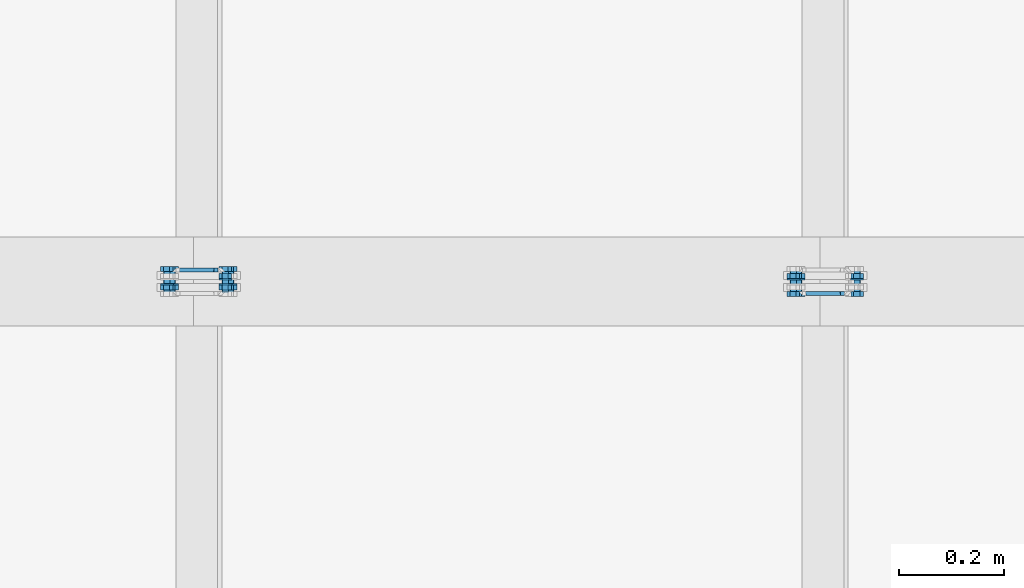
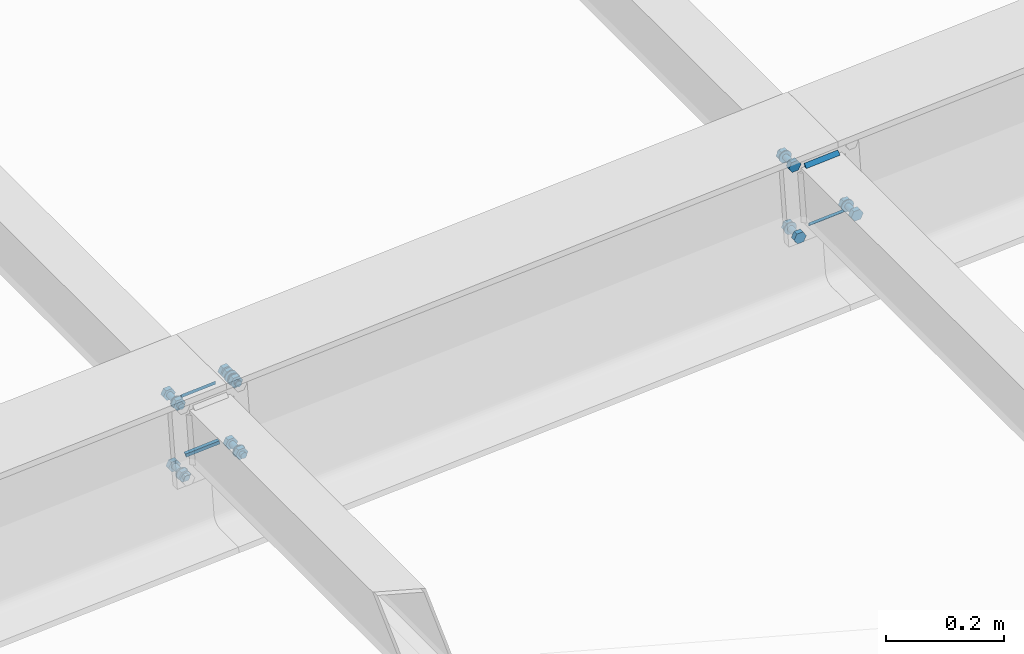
# One storey, part 49 of 72: 31 mechanical fasteners, 8 fasteners.
"""IFC4 building model written with IfcOpenShell, lengths in metres."""

from ifc_helpers import new_model, si_unit, frame, origin_with_axes, place, context, project, spatial, polyline, outline, extrude, type_object, element, save


model = new_model("IFC4")

# Units and contexts
model_context = context("Model", 3, precision=1e-05, world=origin_with_axes())
ifc_project = project(units=[si_unit("LENGTHUNIT", "METRE"), si_unit("AREAUNIT", "SQUARE_METRE"), si_unit("VOLUMEUNIT", "CUBIC_METRE"), si_unit("MASSUNIT", "GRAM", prefix="KILO"), si_unit("TIMEUNIT", "SECOND"), si_unit("PLANEANGLEUNIT", "RADIAN"), si_unit("SOLIDANGLEUNIT", "STERADIAN"), si_unit("THERMODYNAMICTEMPERATUREUNIT", "DEGREE_CELSIUS")], contexts=[model_context])

# Site, building, storey
placement_1 = place(None, origin_with_axes())
site = spatial("IfcSite", under=ifc_project, at=placement_1, Name="Italia", CompositionType="ELEMENT")
building = spatial("IfcBuilding", under=site, at=placement_1, Name="Pensilina", CompositionType="ELEMENT")
storey = spatial("IfcBuildingStorey", under=building, at=placement_1, Name="Storey 0", CompositionType="ELEMENT", Elevation=0.0)

# Mechanical fasteners
mechanical_fastener_type_1 = type_object("IfcMechanicalFastenerType", Name="Collegamento 0303_0302", PredefinedType="BOLT")
placement_2 = place(placement_1, origin_with_axes())
mechanical_fastener_1_placement = place(placement_2, origin_with_axes())
element("IfcMechanicalFastener", 1, at=mechanical_fastener_1_placement, inside=storey, type_object=mechanical_fastener_type_1, Name="Collegamento 0303_0302", NominalDiameter=0.012, context=model_context, shape_type="SweptSolid", body=[
    extrude(outline(polyline([(0.0, 0.0, 0.0), (-0.000204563, -0.00155282, 0.0), (-0.000803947, -0.00300002, 0.0), (-0.00175738, -0.00424266, 0.0), (-0.00300002, -0.00519609, 0.0), (-0.00444722, -0.00579548, 0.0), (-0.00600004, -0.00600004, 0.0), (-0.00755286, -0.00579548, 0.0), (-0.00900006, -0.00519609, 0.0), (-0.0102427, -0.00424266, 0.0), (-0.0111961, -0.00300002, 0.0), (-0.0117955, -0.00155282, 0.0), (-0.0120001, 0.0, 0.0), (-0.0117955, 0.00155282, 0.0), (-0.0111961, 0.00300002, 0.0), (-0.0102427, 0.00424266, 0.0), (-0.00900006, 0.00519609, 0.0), (-0.00755286, 0.00579548, 0.0), (-0.00600004, 0.00600004, 0.0), (-0.00444722, 0.00579548, 0.0), (-0.00300002, 0.00519609, 0.0), (-0.00175738, 0.00424266, 0.0), (-0.000803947, 0.00300002, 0.0), (-0.000204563, 0.00155282, 0.0), (0.0, 0.0, 0.0)])), frame((2.27503, 10.582, 3.85843), z_axis=(0.0, -1.0, 0.0), x_axis=(1.0, 0.0, 0.0)), (0.0, 0.0, 1.0), 0.0410004),
])
mechanical_fastener_type_2 = type_object("IfcMechanicalFastenerType", Name="Collegamento 0303_0302", PredefinedType="BOLT")
mechanical_fastener_2_placement = place(placement_2, origin_with_axes())
element("IfcMechanicalFastener", 2, at=mechanical_fastener_2_placement, inside=storey, type_object=mechanical_fastener_type_2, Name="Collegamento 0303_0302", NominalDiameter=0.0119999, context=model_context, shape_type="SweptSolid", body=[
    extrude(outline(polyline([(0.0, 0.0, 0.0), (-0.0119729, -0.000807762, 0.0), (-0.0186589, 0.00915718, 0.0), (-0.0133719, 0.0199296, 0.0), (-0.00139928, 0.0207376, 0.0), (0.00528669, 0.0107727, 0.0), (0.0, 0.0, 0.0)])), frame((2.27571, 10.5756, 3.84846), z_axis=(0.0, -1.0, 0.0), x_axis=(1.0, 0.0, 0.0)), (0.0, 0.0, 1.0), 0.00959969),
])
mechanical_fastener_type_3 = type_object("IfcMechanicalFastenerType", Name="Collegamento 0303_0302", PredefinedType="BOLT")
mechanical_fastener_3_placement = place(placement_2, origin_with_axes())
element("IfcMechanicalFastener", 3, at=mechanical_fastener_3_placement, inside=storey, type_object=mechanical_fastener_type_3, Name="Collegamento 0303_0302", NominalDiameter=0.024, context=model_context, shape_type="SweptSolid", body=[
    extrude(outline(polyline([(0.0, 0.0, 0.0), (-0.000408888, -0.00310588, 0.0), (-0.00160789, -0.00600004, 0.0), (-0.00351477, -0.00848532, 0.0), (-0.00600004, -0.0103922, 0.0), (-0.00889421, -0.0115912, 0.0), (-0.0120001, -0.0120001, 0.0), (-0.015106, -0.0115912, 0.0), (-0.0180001, -0.0103922, 0.0), (-0.0204854, -0.00848532, 0.0), (-0.0223923, -0.00600004, 0.0), (-0.0235913, -0.00310588, 0.0), (-0.0240002, 0.0, 0.0), (-0.0235913, 0.00310588, 0.0), (-0.0223923, 0.00600004, 0.0), (-0.0204854, 0.00848532, 0.0), (-0.0180001, 0.0103922, 0.0), (-0.015106, 0.0115912, 0.0), (-0.0120001, 0.0120001, 0.0), (-0.00889421, 0.0115912, 0.0), (-0.00600004, 0.0103922, 0.0), (-0.00351477, 0.00848532, 0.0), (-0.00160789, 0.00600004, 0.0), (-0.000408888, 0.00310588, 0.0), (0.0, 0.0, 0.0)])), frame((2.28103, 10.566, 3.85843), z_axis=(0.0, -1.0, 0.0), x_axis=(1.0, 0.0, 0.0)), (0.0, 0.0, 1.0), 0.00199986),
])

# Fasteners
fastener_type_1 = type_object("IfcFastenerType", Name="Collegamento 0303_0304", PredefinedType="WELD")
fastener_1_placement = place(placement_2, origin_with_axes())
element("IfcFastener", 4, at=fastener_1_placement, inside=storey, type_object=fastener_type_1, Name="Collegamento 0303_0304", context=model_context, shape_type="SweptSolid", body=[
    extrude(outline(polyline([(0.0, 0.0, 0.0), (0.00717354, -0.00695801, 0.0), (0.0, -0.00695801, 0.0), (0.0, 0.0, 0.0)])), frame((2.18079, 10.5789, 3.84336), z_axis=(0.997731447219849, 0.0, 0.067319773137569), x_axis=(0.0, 1.0, 0.0)), (0.0, 0.0, 1.0), 0.0661001),
])
fastener_type_2 = type_object("IfcFastenerType", Name="Collegamento 0303_0304", PredefinedType="WELD")
fastener_2_placement = place(placement_2, origin_with_axes())
element("IfcFastener", 5, at=fastener_2_placement, inside=storey, type_object=fastener_type_2, Name="Collegamento 0303_0304", context=model_context, shape_type="SweptSolid", body=[
    extrude(outline(polyline([(0.0, 0.0, 0.0), (-0.00717354, 0.00695801, 0.0), (0.0, 0.00695801, 0.0), (0.0, 0.0, 0.0)])), frame((2.25575, 10.5789, 3.7143), z_axis=(-0.997731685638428, 0.0, -0.067316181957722), x_axis=(0.0, -1.0, 0.0)), (0.0, 0.0, 1.0), 0.0661001),
])
fastener_type_3 = type_object("IfcFastenerType", Name="Collegamento 0303_0304", PredefinedType="WELD")
fastener_3_placement = place(placement_2, origin_with_axes())
element("IfcFastener", 6, at=fastener_3_placement, inside=storey, type_object=fastener_type_3, Name="Collegamento 0303_0304", context=model_context, shape_type="SweptSolid", body=[
    extrude(outline(polyline([(0.0, 0.0, 0.0), (0.00717354, -0.00695801, 0.0), (0.0, -0.00695801, 0.0), (0.0, 0.0, 0.0)])), frame((2.18079, 10.5789, 3.84336), z_axis=(0.997731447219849, 0.0, 0.067319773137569), x_axis=(0.0, 1.0, 0.0)), (0.0, 0.0, 1.0), 0.0661001),
])
fastener_type_4 = type_object("IfcFastenerType", Name="Collegamento 0303_0304", PredefinedType="WELD")
fastener_4_placement = place(placement_2, origin_with_axes())
element("IfcFastener", 7, at=fastener_4_placement, inside=storey, type_object=fastener_type_4, Name="Collegamento 0303_0304", context=model_context, shape_type="SweptSolid", body=[
    extrude(outline(polyline([(0.0, 0.0, 0.0), (-0.00717354, 0.00695801, 0.0), (0.0, 0.00695801, 0.0), (0.0, 0.0, 0.0)])), frame((2.25575, 10.5789, 3.7143), z_axis=(-0.997731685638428, 0.0, -0.067316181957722), x_axis=(0.0, -1.0, 0.0)), (0.0, 0.0, 1.0), 0.0661001),
])

# Mechanical fasteners
mechanical_fastener_type_4 = type_object("IfcMechanicalFastenerType", Name="Collegamento 0303_0304", PredefinedType="BOLT")
mechanical_fastener_4_placement = place(placement_2, origin_with_axes())
element("IfcMechanicalFastener", 8, at=mechanical_fastener_4_placement, inside=storey, type_object=mechanical_fastener_type_4, Name="Collegamento 0303_0304", NominalDiameter=0.0119999, context=model_context, shape_type="SweptSolid", body=[
    extrude(outline(polyline([(0.0, 0.0, 0.0), (-0.0119729, 0.000807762, 0.0), (-0.0172596, 0.0115805, 0.0), (-0.0105736, 0.0215454, 0.0), (0.00139904, 0.0207374, 0.0), (0.00668597, 0.00996494, 0.0), (0.0, 0.0, 0.0)])), frame((2.27397, 10.579, 3.696), z_axis=(0.0, 1.0, 0.0), x_axis=(-1.0, 0.0, 0.0)), (0.0, 0.0, 1.0), 0.00959969),
])
mechanical_fastener_type_5 = type_object("IfcMechanicalFastenerType", Name="Collegamento 0303_0304", PredefinedType="BOLT")
mechanical_fastener_5_placement = place(placement_2, origin_with_axes())
element("IfcMechanicalFastener", 9, at=mechanical_fastener_5_placement, inside=storey, type_object=mechanical_fastener_type_5, Name="Collegamento 0303_0304", NominalDiameter=0.012, context=model_context, shape_type="SweptSolid", body=[
    extrude(outline(polyline([(0.0, 0.0, 0.0), (-0.000204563, -0.00155282, 0.0), (-0.000803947, -0.00300002, 0.0), (-0.00175738, -0.00424266, 0.0), (-0.00300002, -0.00519609, 0.0), (-0.00444722, -0.00579548, 0.0), (-0.00600004, -0.00600004, 0.0), (-0.00755286, -0.00579548, 0.0), (-0.00900006, -0.00519609, 0.0), (-0.0102427, -0.00424266, 0.0), (-0.0111961, -0.00300002, 0.0), (-0.0117955, -0.00155282, 0.0), (-0.0120001, 0.0, 0.0), (-0.0117955, 0.00155282, 0.0), (-0.0111961, 0.00300002, 0.0), (-0.0102427, 0.00424266, 0.0), (-0.00900006, 0.00519609, 0.0), (-0.00755286, 0.00579548, 0.0), (-0.00600004, 0.00600004, 0.0), (-0.00444722, 0.00579548, 0.0), (-0.00300002, 0.00519609, 0.0), (-0.00175738, 0.00424266, 0.0), (-0.000803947, 0.00300002, 0.0), (-0.000204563, 0.00155282, 0.0), (0.0, 0.0, 0.0)])), frame((2.27326, 10.538, 3.70677), z_axis=(0.0, 1.0, 0.0), x_axis=(-1.0, 0.0, 0.0)), (0.0, 0.0, 1.0), 0.0410004),
])
mechanical_fastener_type_6 = type_object("IfcMechanicalFastenerType", Name="Collegamento 0303_0304", PredefinedType="BOLT")
mechanical_fastener_6_placement = place(placement_2, origin_with_axes())
element("IfcMechanicalFastener", 10, at=mechanical_fastener_6_placement, inside=storey, type_object=mechanical_fastener_type_6, Name="Collegamento 0303_0304", NominalDiameter=0.0119999, context=model_context, shape_type="SweptSolid", body=[
    extrude(outline(polyline([(0.0, 0.0, 0.0), (-0.0119729, 0.000807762, 0.0), (-0.0172596, 0.0115805, 0.0), (-0.0105736, 0.0215454, 0.0), (0.00139904, 0.0207374, 0.0), (0.00668597, 0.00996494, 0.0), (0.0, 0.0, 0.0)])), frame((2.27397, 10.5444, 3.696), z_axis=(0.0, 1.0, 0.0), x_axis=(-1.0, 0.0, 0.0)), (0.0, 0.0, 1.0), 0.00959969),
])
mechanical_fastener_type_7 = type_object("IfcMechanicalFastenerType", Name="Collegamento 0303_0304", PredefinedType="BOLT")
mechanical_fastener_7_placement = place(placement_2, origin_with_axes())
element("IfcMechanicalFastener", 11, at=mechanical_fastener_7_placement, inside=storey, type_object=mechanical_fastener_type_7, Name="Collegamento 0303_0304", NominalDiameter=0.024, context=model_context, shape_type="SweptSolid", body=[
    extrude(outline(polyline([(0.0, 0.0, 0.0), (-0.000408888, -0.00310588, 0.0), (-0.00160789, -0.00600004, 0.0), (-0.00351477, -0.00848532, 0.0), (-0.00600004, -0.0103922, 0.0), (-0.00889421, -0.0115912, 0.0), (-0.0120001, -0.0120001, 0.0), (-0.015106, -0.0115912, 0.0), (-0.0180001, -0.0103922, 0.0), (-0.0204854, -0.00848532, 0.0), (-0.0223923, -0.00600004, 0.0), (-0.0235913, -0.00310588, 0.0), (-0.0240002, 0.0, 0.0), (-0.0235913, 0.00310588, 0.0), (-0.0223923, 0.00600004, 0.0), (-0.0204854, 0.00848532, 0.0), (-0.0180001, 0.0103922, 0.0), (-0.015106, 0.0115912, 0.0), (-0.0120001, 0.0120001, 0.0), (-0.00889421, 0.0115912, 0.0), (-0.00600004, 0.0103922, 0.0), (-0.00351477, 0.00848532, 0.0), (-0.00160789, 0.00600004, 0.0), (-0.000408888, 0.00310588, 0.0), (0.0, 0.0, 0.0)])), frame((2.26726, 10.554, 3.70677), z_axis=(0.0, 1.0, 0.0), x_axis=(-1.0, 0.0, 0.0)), (0.0, 0.0, 1.0), 0.00199986),
])
mechanical_fastener_type_8 = type_object("IfcMechanicalFastenerType", Name="Collegamento 0303_0304", PredefinedType="BOLT")
mechanical_fastener_8_placement = place(placement_2, origin_with_axes())
element("IfcMechanicalFastener", 12, at=mechanical_fastener_8_placement, inside=storey, type_object=mechanical_fastener_type_8, Name="Collegamento 0303_0304", NominalDiameter=0.0119999, context=model_context, shape_type="SweptSolid", body=[
    extrude(outline(polyline([(0.0, 0.0, 0.0), (-0.0119727, 0.000808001, 0.0), (-0.0172596, 0.0115805, 0.0), (-0.0105736, 0.0215454, 0.0), (0.00139928, 0.0207376, 0.0), (0.00668597, 0.00996494, 0.0), (0.0, 0.0, 0.0)])), frame((2.16223, 10.579, 3.68846), z_axis=(0.0, 1.0, 0.0), x_axis=(-1.0, 0.0, 0.0)), (0.0, 0.0, 1.0), 0.00959969),
])
mechanical_fastener_type_9 = type_object("IfcMechanicalFastenerType", Name="Collegamento 0303_0304", PredefinedType="BOLT")
mechanical_fastener_9_placement = place(placement_2, origin_with_axes())
element("IfcMechanicalFastener", 13, at=mechanical_fastener_9_placement, inside=storey, type_object=mechanical_fastener_type_9, Name="Collegamento 0303_0304", NominalDiameter=0.012, context=model_context, shape_type="SweptSolid", body=[
    extrude(outline(polyline([(0.0, 0.0, 0.0), (-0.000204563, -0.00155282, 0.0), (-0.000803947, -0.00300002, 0.0), (-0.00175738, -0.00424266, 0.0), (-0.00300002, -0.00519609, 0.0), (-0.00444722, -0.00579548, 0.0), (-0.00600004, -0.00600004, 0.0), (-0.00755286, -0.00579548, 0.0), (-0.00900006, -0.00519609, 0.0), (-0.0102427, -0.00424266, 0.0), (-0.0111961, -0.00300002, 0.0), (-0.0117955, -0.00155282, 0.0), (-0.0120001, 0.0, 0.0), (-0.0117955, 0.00155282, 0.0), (-0.0111961, 0.00300002, 0.0), (-0.0102427, 0.00424266, 0.0), (-0.00900006, 0.00519609, 0.0), (-0.00755286, 0.00579548, 0.0), (-0.00600004, 0.00600004, 0.0), (-0.00444722, 0.00579548, 0.0), (-0.00300002, 0.00519609, 0.0), (-0.00175738, 0.00424266, 0.0), (-0.000803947, 0.00300002, 0.0), (-0.000204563, 0.00155282, 0.0), (0.0, 0.0, 0.0)])), frame((2.16151, 10.538, 3.69923), z_axis=(0.0, 1.0, 0.0), x_axis=(-1.0, 0.0, 0.0)), (0.0, 0.0, 1.0), 0.0410004),
])
mechanical_fastener_type_10 = type_object("IfcMechanicalFastenerType", Name="Collegamento 0303_0304", PredefinedType="BOLT")
mechanical_fastener_10_placement = place(placement_2, origin_with_axes())
element("IfcMechanicalFastener", 14, at=mechanical_fastener_10_placement, inside=storey, type_object=mechanical_fastener_type_10, Name="Collegamento 0303_0304", NominalDiameter=0.0119999, context=model_context, shape_type="SweptSolid", body=[
    extrude(outline(polyline([(0.0, 0.0, 0.0), (-0.0119727, 0.000808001, 0.0), (-0.0172596, 0.0115805, 0.0), (-0.0105736, 0.0215454, 0.0), (0.00139928, 0.0207376, 0.0), (0.00668597, 0.00996494, 0.0), (0.0, 0.0, 0.0)])), frame((2.16223, 10.5444, 3.68846), z_axis=(0.0, 1.0, 0.0), x_axis=(-1.0, 0.0, 0.0)), (0.0, 0.0, 1.0), 0.00959969),
])
mechanical_fastener_type_11 = type_object("IfcMechanicalFastenerType", Name="Collegamento 0303_0304", PredefinedType="BOLT")
mechanical_fastener_11_placement = place(placement_2, origin_with_axes())
element("IfcMechanicalFastener", 15, at=mechanical_fastener_11_placement, inside=storey, type_object=mechanical_fastener_type_11, Name="Collegamento 0303_0304", NominalDiameter=0.024, context=model_context, shape_type="SweptSolid", body=[
    extrude(outline(polyline([(0.0, 0.0, 0.0), (-0.000408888, -0.00310588, 0.0), (-0.00160789, -0.00600004, 0.0), (-0.00351477, -0.00848532, 0.0), (-0.00600004, -0.0103922, 0.0), (-0.00889421, -0.0115912, 0.0), (-0.0120001, -0.0120001, 0.0), (-0.015106, -0.0115912, 0.0), (-0.0180001, -0.0103922, 0.0), (-0.0204854, -0.00848532, 0.0), (-0.0223923, -0.00600004, 0.0), (-0.0235913, -0.00310588, 0.0), (-0.0240002, 0.0, 0.0), (-0.0235913, 0.00310588, 0.0), (-0.0223923, 0.00600004, 0.0), (-0.0204854, 0.00848532, 0.0), (-0.0180001, 0.0103922, 0.0), (-0.015106, 0.0115912, 0.0), (-0.0120001, 0.0120001, 0.0), (-0.00889421, 0.0115912, 0.0), (-0.00600004, 0.0103922, 0.0), (-0.00351477, 0.00848532, 0.0), (-0.00160789, 0.00600004, 0.0), (-0.000408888, 0.00310588, 0.0), (0.0, 0.0, 0.0)])), frame((2.15551, 10.554, 3.69923), z_axis=(0.0, 1.0, 0.0), x_axis=(-1.0, 0.0, 0.0)), (0.0, 0.0, 1.0), 0.00199986),
])
mechanical_fastener_type_12 = type_object("IfcMechanicalFastenerType", Name="Collegamento 0303_0304", PredefinedType="BOLT")
mechanical_fastener_12_placement = place(placement_2, origin_with_axes())
element("IfcMechanicalFastener", 16, at=mechanical_fastener_12_placement, inside=storey, type_object=mechanical_fastener_type_12, Name="Collegamento 0303_0304", NominalDiameter=0.0119999, context=model_context, shape_type="SweptSolid", body=[
    extrude(outline(polyline([(0.0, 0.0, 0.0), (-0.0119729, 0.000807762, 0.0), (-0.0172596, 0.0115805, 0.0), (-0.0105736, 0.0215454, 0.0), (0.00139904, 0.0207374, 0.0), (0.00668597, 0.00996494, 0.0), (0.0, 0.0, 0.0)])), frame((2.26374, 10.579, 3.84766), z_axis=(0.0, 1.0, 0.0), x_axis=(-1.0, 0.0, 0.0)), (0.0, 0.0, 1.0), 0.00959969),
])
mechanical_fastener_type_13 = type_object("IfcMechanicalFastenerType", Name="Collegamento 0303_0304", PredefinedType="BOLT")
mechanical_fastener_13_placement = place(placement_2, origin_with_axes())
element("IfcMechanicalFastener", 17, at=mechanical_fastener_13_placement, inside=storey, type_object=mechanical_fastener_type_13, Name="Collegamento 0303_0304", NominalDiameter=0.012, context=model_context, shape_type="SweptSolid", body=[
    extrude(outline(polyline([(0.0, 0.0, 0.0), (-0.000204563, -0.00155282, 0.0), (-0.000803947, -0.00300002, 0.0), (-0.00175738, -0.00424266, 0.0), (-0.00300002, -0.00519609, 0.0), (-0.00444722, -0.00579548, 0.0), (-0.00600004, -0.00600004, 0.0), (-0.00755286, -0.00579548, 0.0), (-0.00900006, -0.00519609, 0.0), (-0.0102427, -0.00424266, 0.0), (-0.0111961, -0.00300002, 0.0), (-0.0117955, -0.00155282, 0.0), (-0.0120001, 0.0, 0.0), (-0.0117955, 0.00155282, 0.0), (-0.0111961, 0.00300002, 0.0), (-0.0102427, 0.00424266, 0.0), (-0.00900006, 0.00519609, 0.0), (-0.00755286, 0.00579548, 0.0), (-0.00600004, 0.00600004, 0.0), (-0.00444722, 0.00579548, 0.0), (-0.00300002, 0.00519609, 0.0), (-0.00175738, 0.00424266, 0.0), (-0.000803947, 0.00300002, 0.0), (-0.000204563, 0.00155282, 0.0), (0.0, 0.0, 0.0)])), frame((2.26303, 10.538, 3.85843), z_axis=(0.0, 1.0, 0.0), x_axis=(-1.0, 0.0, 0.0)), (0.0, 0.0, 1.0), 0.0410004),
])
mechanical_fastener_type_14 = type_object("IfcMechanicalFastenerType", Name="Collegamento 0303_0304", PredefinedType="BOLT")
mechanical_fastener_14_placement = place(placement_2, origin_with_axes())
element("IfcMechanicalFastener", 18, at=mechanical_fastener_14_placement, inside=storey, type_object=mechanical_fastener_type_14, Name="Collegamento 0303_0304", NominalDiameter=0.0119999, context=model_context, shape_type="SweptSolid", body=[
    extrude(outline(polyline([(0.0, 0.0, 0.0), (-0.0119729, 0.000807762, 0.0), (-0.0172596, 0.0115805, 0.0), (-0.0105736, 0.0215454, 0.0), (0.00139904, 0.0207374, 0.0), (0.00668597, 0.00996494, 0.0), (0.0, 0.0, 0.0)])), frame((2.26374, 10.5444, 3.84766), z_axis=(0.0, 1.0, 0.0), x_axis=(-1.0, 0.0, 0.0)), (0.0, 0.0, 1.0), 0.00959969),
])
mechanical_fastener_type_15 = type_object("IfcMechanicalFastenerType", Name="Collegamento 0303_0304", PredefinedType="BOLT")
mechanical_fastener_15_placement = place(placement_2, origin_with_axes())
element("IfcMechanicalFastener", 19, at=mechanical_fastener_15_placement, inside=storey, type_object=mechanical_fastener_type_15, Name="Collegamento 0303_0304", NominalDiameter=0.024, context=model_context, shape_type="SweptSolid", body=[
    extrude(outline(polyline([(0.0, 0.0, 0.0), (-0.000408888, -0.00310588, 0.0), (-0.00160789, -0.00600004, 0.0), (-0.00351477, -0.00848532, 0.0), (-0.00600004, -0.0103922, 0.0), (-0.00889421, -0.0115912, 0.0), (-0.0120001, -0.0120001, 0.0), (-0.015106, -0.0115912, 0.0), (-0.0180001, -0.0103922, 0.0), (-0.0204854, -0.00848532, 0.0), (-0.0223923, -0.00600004, 0.0), (-0.0235913, -0.00310588, 0.0), (-0.0240002, 0.0, 0.0), (-0.0235913, 0.00310588, 0.0), (-0.0223923, 0.00600004, 0.0), (-0.0204854, 0.00848532, 0.0), (-0.0180001, 0.0103922, 0.0), (-0.015106, 0.0115912, 0.0), (-0.0120001, 0.0120001, 0.0), (-0.00889421, 0.0115912, 0.0), (-0.00600004, 0.0103922, 0.0), (-0.00351477, 0.00848532, 0.0), (-0.00160789, 0.00600004, 0.0), (-0.000408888, 0.00310588, 0.0), (0.0, 0.0, 0.0)])), frame((2.25703, 10.554, 3.85843), z_axis=(0.0, 1.0, 0.0), x_axis=(-1.0, 0.0, 0.0)), (0.0, 0.0, 1.0), 0.00199986),
])
mechanical_fastener_type_16 = type_object("IfcMechanicalFastenerType", Name="Collegamento 0303_0304", PredefinedType="BOLT")
mechanical_fastener_16_placement = place(placement_2, origin_with_axes())
element("IfcMechanicalFastener", 20, at=mechanical_fastener_16_placement, inside=storey, type_object=mechanical_fastener_type_16, Name="Collegamento 0303_0304", NominalDiameter=0.0119999, context=model_context, shape_type="SweptSolid", body=[
    extrude(outline(polyline([(0.0, 0.0, 0.0), (-0.0119727, 0.000808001, 0.0), (-0.0172596, 0.0115805, 0.0), (-0.0105736, 0.0215454, 0.0), (0.00139928, 0.0207376, 0.0), (0.00668597, 0.00996494, 0.0), (0.0, 0.0, 0.0)])), frame((2.15199, 10.579, 3.84012), z_axis=(0.0, 1.0, 0.0), x_axis=(-1.0, 0.0, 0.0)), (0.0, 0.0, 1.0), 0.00959969),
])
mechanical_fastener_type_17 = type_object("IfcMechanicalFastenerType", Name="Collegamento 0303_0304", PredefinedType="BOLT")
mechanical_fastener_17_placement = place(placement_2, origin_with_axes())
element("IfcMechanicalFastener", 21, at=mechanical_fastener_17_placement, inside=storey, type_object=mechanical_fastener_type_17, Name="Collegamento 0303_0304", NominalDiameter=0.012, context=model_context, shape_type="SweptSolid", body=[
    extrude(outline(polyline([(0.0, 0.0, 0.0), (-0.000204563, -0.00155282, 0.0), (-0.000803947, -0.00300002, 0.0), (-0.00175738, -0.00424266, 0.0), (-0.00300002, -0.00519609, 0.0), (-0.00444722, -0.00579548, 0.0), (-0.00600004, -0.00600004, 0.0), (-0.00755286, -0.00579548, 0.0), (-0.00900006, -0.00519609, 0.0), (-0.0102427, -0.00424266, 0.0), (-0.0111961, -0.00300002, 0.0), (-0.0117955, -0.00155282, 0.0), (-0.0120001, 0.0, 0.0), (-0.0117955, 0.00155282, 0.0), (-0.0111961, 0.00300002, 0.0), (-0.0102427, 0.00424266, 0.0), (-0.00900006, 0.00519609, 0.0), (-0.00755286, 0.00579548, 0.0), (-0.00600004, 0.00600004, 0.0), (-0.00444722, 0.00579548, 0.0), (-0.00300002, 0.00519609, 0.0), (-0.00175738, 0.00424266, 0.0), (-0.000803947, 0.00300002, 0.0), (-0.000204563, 0.00155282, 0.0), (0.0, 0.0, 0.0)])), frame((2.15128, 10.538, 3.85089), z_axis=(0.0, 1.0, 0.0), x_axis=(-1.0, 0.0, 0.0)), (0.0, 0.0, 1.0), 0.0410004),
])
mechanical_fastener_type_18 = type_object("IfcMechanicalFastenerType", Name="Collegamento 0303_0304", PredefinedType="BOLT")
mechanical_fastener_18_placement = place(placement_2, origin_with_axes())
element("IfcMechanicalFastener", 22, at=mechanical_fastener_18_placement, inside=storey, type_object=mechanical_fastener_type_18, Name="Collegamento 0303_0304", NominalDiameter=0.0119999, context=model_context, shape_type="SweptSolid", body=[
    extrude(outline(polyline([(0.0, 0.0, 0.0), (-0.0119727, 0.000808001, 0.0), (-0.0172596, 0.0115805, 0.0), (-0.0105736, 0.0215454, 0.0), (0.00139928, 0.0207376, 0.0), (0.00668597, 0.00996494, 0.0), (0.0, 0.0, 0.0)])), frame((2.15199, 10.5444, 3.84012), z_axis=(0.0, 1.0, 0.0), x_axis=(-1.0, 0.0, 0.0)), (0.0, 0.0, 1.0), 0.00959969),
])
mechanical_fastener_type_19 = type_object("IfcMechanicalFastenerType", Name="Collegamento 0303_0304", PredefinedType="BOLT")
mechanical_fastener_19_placement = place(placement_2, origin_with_axes())
element("IfcMechanicalFastener", 23, at=mechanical_fastener_19_placement, inside=storey, type_object=mechanical_fastener_type_19, Name="Collegamento 0303_0304", NominalDiameter=0.024, context=model_context, shape_type="SweptSolid", body=[
    extrude(outline(polyline([(0.0, 0.0, 0.0), (-0.000408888, -0.00310588, 0.0), (-0.00160789, -0.00600004, 0.0), (-0.00351477, -0.00848532, 0.0), (-0.00600004, -0.0103922, 0.0), (-0.00889421, -0.0115912, 0.0), (-0.0120001, -0.0120001, 0.0), (-0.015106, -0.0115912, 0.0), (-0.0180001, -0.0103922, 0.0), (-0.0204854, -0.00848532, 0.0), (-0.0223923, -0.00600004, 0.0), (-0.0235913, -0.00310588, 0.0), (-0.0240002, 0.0, 0.0), (-0.0235913, 0.00310588, 0.0), (-0.0223923, 0.00600004, 0.0), (-0.0204854, 0.00848532, 0.0), (-0.0180001, 0.0103922, 0.0), (-0.015106, 0.0115912, 0.0), (-0.0120001, 0.0120001, 0.0), (-0.00889421, 0.0115912, 0.0), (-0.00600004, 0.0103922, 0.0), (-0.00351477, 0.00848532, 0.0), (-0.00160789, 0.00600004, 0.0), (-0.000408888, 0.00310588, 0.0), (0.0, 0.0, 0.0)])), frame((2.14528, 10.554, 3.85089), z_axis=(0.0, 1.0, 0.0), x_axis=(-1.0, 0.0, 0.0)), (0.0, 0.0, 1.0), 0.00199986),
])

# Fasteners
fastener_type_5 = type_object("IfcFastenerType", Name="Collegamento 0403_0402", PredefinedType="WELD")
fastener_5_placement = place(placement_2, origin_with_axes())
element("IfcFastener", 24, at=fastener_5_placement, inside=storey, type_object=fastener_type_5, Name="Collegamento 0403_0402", context=model_context, shape_type="SweptSolid", body=[
    extrude(outline(polyline([(0.0, 0.0, 0.0), (0.00717354, -0.00695825, 0.0), (0.0, -0.00695825, 0.0), (0.0, 0.0, 0.0)])), frame((3.44387, 10.5411, 3.93006), z_axis=(-0.997731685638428, 0.0, -0.067316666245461), x_axis=(0.0, -1.0, 0.0)), (0.0, 0.0, 1.0), 0.0660996),
])
fastener_type_6 = type_object("IfcFastenerType", Name="Collegamento 0403_0402", PredefinedType="WELD")
fastener_6_placement = place(placement_2, origin_with_axes())
element("IfcFastener", 25, at=fastener_6_placement, inside=storey, type_object=fastener_type_6, Name="Collegamento 0403_0402", context=model_context, shape_type="SweptSolid", body=[
    extrude(outline(polyline([(0.0, 0.0, 0.0), (-0.00717354, 0.00695801, 0.0), (0.0, 0.00695801, 0.0), (0.0, 0.0, 0.0)])), frame((3.38693, 10.5411, 3.79209), z_axis=(0.997731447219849, 0.0, 0.067320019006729), x_axis=(0.0, 1.0, 0.0)), (0.0, 0.0, 1.0), 0.0660999),
])
fastener_type_7 = type_object("IfcFastenerType", Name="Collegamento 0403_0402", PredefinedType="WELD")
fastener_7_placement = place(placement_2, origin_with_axes())
element("IfcFastener", 26, at=fastener_7_placement, inside=storey, type_object=fastener_type_7, Name="Collegamento 0403_0402", context=model_context, shape_type="SweptSolid", body=[
    extrude(outline(polyline([(0.0, 0.0, 0.0), (0.00717354, -0.00695825, 0.0), (0.0, -0.00695825, 0.0), (0.0, 0.0, 0.0)])), frame((3.44387, 10.5411, 3.93006), z_axis=(-0.997731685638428, 0.0, -0.067316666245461), x_axis=(0.0, -1.0, 0.0)), (0.0, 0.0, 1.0), 0.0660996),
])
fastener_type_8 = type_object("IfcFastenerType", Name="Collegamento 0403_0402", PredefinedType="WELD")
fastener_8_placement = place(placement_2, origin_with_axes())
element("IfcFastener", 27, at=fastener_8_placement, inside=storey, type_object=fastener_type_8, Name="Collegamento 0403_0402", context=model_context, shape_type="SweptSolid", body=[
    extrude(outline(polyline([(0.0, 0.0, 0.0), (-0.00717354, 0.00695801, 0.0), (0.0, 0.00695801, 0.0), (0.0, 0.0, 0.0)])), frame((3.38693, 10.5411, 3.79209), z_axis=(0.997731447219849, 0.0, 0.067320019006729), x_axis=(0.0, 1.0, 0.0)), (0.0, 0.0, 1.0), 0.0660999),
])

# Mechanical fasteners
mechanical_fastener_type_20 = type_object("IfcMechanicalFastenerType", Name="Collegamento 0403_0402", PredefinedType="BOLT")
mechanical_fastener_20_placement = place(placement_2, origin_with_axes())
element("IfcMechanicalFastener", 28, at=mechanical_fastener_20_placement, inside=storey, type_object=mechanical_fastener_type_20, Name="Collegamento 0403_0402", NominalDiameter=0.0119998, context=model_context, shape_type="SweptSolid", body=[
    extrude(outline(polyline([(0.0, 0.0, 0.0), (-0.0119729, -0.000808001, 0.0), (-0.0186589, 0.00915694, 0.0), (-0.0133719, 0.0199296, 0.0), (-0.00139928, 0.0207374, 0.0), (0.00528669, 0.0107725, 0.0), (0.0, 0.0, 0.0)])), frame((3.37133, 10.541, 3.77151), z_axis=(0.0, -1.0, 0.0), x_axis=(1.0, 0.0, 0.0)), (0.0, 0.0, 1.0), 0.00959969),
])
mechanical_fastener_type_21 = type_object("IfcMechanicalFastenerType", Name="Collegamento 0403_0402", PredefinedType="BOLT")
mechanical_fastener_21_placement = place(placement_2, origin_with_axes())
element("IfcMechanicalFastener", 29, at=mechanical_fastener_21_placement, inside=storey, type_object=mechanical_fastener_type_21, Name="Collegamento 0403_0402", NominalDiameter=0.012, context=model_context, shape_type="SweptSolid", body=[
    extrude(outline(polyline([(0.0, 0.0, 0.0), (-0.000204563, -0.00155282, 0.0), (-0.000803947, -0.00300002, 0.0), (-0.00175738, -0.00424266, 0.0), (-0.00300002, -0.00519609, 0.0), (-0.00444722, -0.00579548, 0.0), (-0.00600004, -0.00600004, 0.0), (-0.00755286, -0.00579548, 0.0), (-0.00900006, -0.00519609, 0.0), (-0.0102427, -0.00424266, 0.0), (-0.0111961, -0.00300002, 0.0), (-0.0117955, -0.00155282, 0.0), (-0.0120001, 0.0, 0.0), (-0.0117955, 0.00155282, 0.0), (-0.0111961, 0.00300002, 0.0), (-0.0102427, 0.00424266, 0.0), (-0.00900006, 0.00519609, 0.0), (-0.00755286, 0.00579548, 0.0), (-0.00600004, 0.00600004, 0.0), (-0.00444722, 0.00579548, 0.0), (-0.00300002, 0.00519609, 0.0), (-0.00175738, 0.00424266, 0.0), (-0.000803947, 0.00300002, 0.0), (-0.000204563, 0.00155282, 0.0), (0.0, 0.0, 0.0)])), frame((3.37064, 10.582, 3.78148), z_axis=(0.0, -1.0, 0.0), x_axis=(1.0, 0.0, 0.0)), (0.0, 0.0, 1.0), 0.0410004),
])
mechanical_fastener_type_22 = type_object("IfcMechanicalFastenerType", Name="Collegamento 0403_0402", PredefinedType="BOLT")
mechanical_fastener_22_placement = place(placement_2, origin_with_axes())
element("IfcMechanicalFastener", 30, at=mechanical_fastener_22_placement, inside=storey, type_object=mechanical_fastener_type_22, Name="Collegamento 0403_0402", NominalDiameter=0.0119998, context=model_context, shape_type="SweptSolid", body=[
    extrude(outline(polyline([(0.0, 0.0, 0.0), (-0.0119729, -0.000808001, 0.0), (-0.0186589, 0.00915694, 0.0), (-0.0133719, 0.0199296, 0.0), (-0.00139928, 0.0207374, 0.0), (0.00528669, 0.0107725, 0.0), (0.0, 0.0, 0.0)])), frame((3.37133, 10.5756, 3.77151), z_axis=(0.0, -1.0, 0.0), x_axis=(1.0, 0.0, 0.0)), (0.0, 0.0, 1.0), 0.00959969),
])
mechanical_fastener_type_23 = type_object("IfcMechanicalFastenerType", Name="Collegamento 0403_0402", PredefinedType="BOLT")
mechanical_fastener_23_placement = place(placement_2, origin_with_axes())
element("IfcMechanicalFastener", 31, at=mechanical_fastener_23_placement, inside=storey, type_object=mechanical_fastener_type_23, Name="Collegamento 0403_0402", NominalDiameter=0.024, context=model_context, shape_type="SweptSolid", body=[
    extrude(outline(polyline([(0.0, 0.0, 0.0), (-0.000408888, -0.00310588, 0.0), (-0.00160789, -0.00600004, 0.0), (-0.00351477, -0.00848532, 0.0), (-0.00600004, -0.0103922, 0.0), (-0.00889421, -0.0115912, 0.0), (-0.0120001, -0.0120001, 0.0), (-0.015106, -0.0115912, 0.0), (-0.0180001, -0.0103922, 0.0), (-0.0204854, -0.00848532, 0.0), (-0.0223923, -0.00600004, 0.0), (-0.0235913, -0.00310588, 0.0), (-0.0240002, 0.0, 0.0), (-0.0235913, 0.00310588, 0.0), (-0.0223923, 0.00600004, 0.0), (-0.0204854, 0.00848532, 0.0), (-0.0180001, 0.0103922, 0.0), (-0.015106, 0.0115912, 0.0), (-0.0120001, 0.0120001, 0.0), (-0.00889421, 0.0115912, 0.0), (-0.00600004, 0.0103922, 0.0), (-0.00351477, 0.00848532, 0.0), (-0.00160789, 0.00600004, 0.0), (-0.000408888, 0.00310588, 0.0), (0.0, 0.0, 0.0)])), frame((3.37664, 10.566, 3.78148), z_axis=(0.0, -1.0, 0.0), x_axis=(1.0, 0.0, 0.0)), (0.0, 0.0, 1.0), 0.00199986),
])
mechanical_fastener_type_24 = type_object("IfcMechanicalFastenerType", Name="Collegamento 0403_0402", PredefinedType="BOLT")
mechanical_fastener_24_placement = place(placement_2, origin_with_axes())
element("IfcMechanicalFastener", 32, at=mechanical_fastener_24_placement, inside=storey, type_object=mechanical_fastener_type_24, Name="Collegamento 0403_0402", NominalDiameter=0.0119998, context=model_context, shape_type="SweptSolid", body=[
    extrude(outline(polyline([(0.0, 0.0, 0.0), (-0.0119727, -0.000807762, 0.0), (-0.0186586, 0.00915718, 0.0), (-0.0133719, 0.0199296, 0.0), (-0.00139904, 0.0207376, 0.0), (0.00528693, 0.0107727, 0.0), (0.0, 0.0, 0.0)])), frame((3.48307, 10.541, 3.77905), z_axis=(0.0, -1.0, 0.0), x_axis=(1.0, 0.0, 0.0)), (0.0, 0.0, 1.0), 0.00959969),
])
mechanical_fastener_type_25 = type_object("IfcMechanicalFastenerType", Name="Collegamento 0403_0402", PredefinedType="BOLT")
mechanical_fastener_25_placement = place(placement_2, origin_with_axes())
element("IfcMechanicalFastener", 33, at=mechanical_fastener_25_placement, inside=storey, type_object=mechanical_fastener_type_25, Name="Collegamento 0403_0402", NominalDiameter=0.012, context=model_context, shape_type="SweptSolid", body=[
    extrude(outline(polyline([(0.0, 0.0, 0.0), (-0.000204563, -0.00155282, 0.0), (-0.000803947, -0.00300002, 0.0), (-0.00175738, -0.00424266, 0.0), (-0.00300002, -0.00519609, 0.0), (-0.00444722, -0.00579548, 0.0), (-0.00600004, -0.00600004, 0.0), (-0.00755286, -0.00579548, 0.0), (-0.00900006, -0.00519609, 0.0), (-0.0102427, -0.00424266, 0.0), (-0.0111961, -0.00300002, 0.0), (-0.0117955, -0.00155282, 0.0), (-0.0120001, 0.0, 0.0), (-0.0117955, 0.00155282, 0.0), (-0.0111961, 0.00300002, 0.0), (-0.0102427, 0.00424266, 0.0), (-0.00900006, 0.00519609, 0.0), (-0.00755286, 0.00579548, 0.0), (-0.00600004, 0.00600004, 0.0), (-0.00444722, 0.00579548, 0.0), (-0.00300002, 0.00519609, 0.0), (-0.00175738, 0.00424266, 0.0), (-0.000803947, 0.00300002, 0.0), (-0.000204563, 0.00155282, 0.0), (0.0, 0.0, 0.0)])), frame((3.48239, 10.582, 3.78902), z_axis=(0.0, -1.0, 0.0), x_axis=(1.0, 0.0, 0.0)), (0.0, 0.0, 1.0), 0.0410004),
])
mechanical_fastener_type_26 = type_object("IfcMechanicalFastenerType", Name="Collegamento 0403_0402", PredefinedType="BOLT")
mechanical_fastener_26_placement = place(placement_2, origin_with_axes())
element("IfcMechanicalFastener", 34, at=mechanical_fastener_26_placement, inside=storey, type_object=mechanical_fastener_type_26, Name="Collegamento 0403_0402", NominalDiameter=0.0119998, context=model_context, shape_type="SweptSolid", body=[
    extrude(outline(polyline([(0.0, 0.0, 0.0), (-0.0119727, -0.000807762, 0.0), (-0.0186586, 0.00915718, 0.0), (-0.0133719, 0.0199296, 0.0), (-0.00139904, 0.0207376, 0.0), (0.00528693, 0.0107727, 0.0), (0.0, 0.0, 0.0)])), frame((3.48307, 10.5756, 3.77905), z_axis=(0.0, -1.0, 0.0), x_axis=(1.0, 0.0, 0.0)), (0.0, 0.0, 1.0), 0.00959969),
])
mechanical_fastener_type_27 = type_object("IfcMechanicalFastenerType", Name="Collegamento 0403_0402", PredefinedType="BOLT")
mechanical_fastener_27_placement = place(placement_2, origin_with_axes())
element("IfcMechanicalFastener", 35, at=mechanical_fastener_27_placement, inside=storey, type_object=mechanical_fastener_type_27, Name="Collegamento 0403_0402", NominalDiameter=0.024, context=model_context, shape_type="SweptSolid", body=[
    extrude(outline(polyline([(0.0, 0.0, 0.0), (-0.000408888, -0.00310588, 0.0), (-0.00160789, -0.00600004, 0.0), (-0.00351477, -0.00848532, 0.0), (-0.00600004, -0.0103922, 0.0), (-0.00889421, -0.0115912, 0.0), (-0.0120001, -0.0120001, 0.0), (-0.015106, -0.0115912, 0.0), (-0.0180001, -0.0103922, 0.0), (-0.0204854, -0.00848532, 0.0), (-0.0223923, -0.00600004, 0.0), (-0.0235913, -0.00310588, 0.0), (-0.0240002, 0.0, 0.0), (-0.0235913, 0.00310588, 0.0), (-0.0223923, 0.00600004, 0.0), (-0.0204854, 0.00848532, 0.0), (-0.0180001, 0.0103922, 0.0), (-0.015106, 0.0115912, 0.0), (-0.0120001, 0.0120001, 0.0), (-0.00889421, 0.0115912, 0.0), (-0.00600004, 0.0103922, 0.0), (-0.00351477, 0.00848532, 0.0), (-0.00160789, 0.00600004, 0.0), (-0.000408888, 0.00310588, 0.0), (0.0, 0.0, 0.0)])), frame((3.48839, 10.566, 3.78902), z_axis=(0.0, -1.0, 0.0), x_axis=(1.0, 0.0, 0.0)), (0.0, 0.0, 1.0), 0.00199986),
])
mechanical_fastener_type_28 = type_object("IfcMechanicalFastenerType", Name="Collegamento 0403_0402", PredefinedType="BOLT")
mechanical_fastener_28_placement = place(placement_2, origin_with_axes())
element("IfcMechanicalFastener", 36, at=mechanical_fastener_28_placement, inside=storey, type_object=mechanical_fastener_type_28, Name="Collegamento 0403_0402", NominalDiameter=0.0119998, context=model_context, shape_type="SweptSolid", body=[
    extrude(outline(polyline([(0.0, 0.0, 0.0), (-0.0119729, -0.000808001, 0.0), (-0.0186589, 0.00915694, 0.0), (-0.0133719, 0.0199296, 0.0), (-0.00139928, 0.0207374, 0.0), (0.00528669, 0.0107725, 0.0), (0.0, 0.0, 0.0)])), frame((3.3611, 10.541, 3.92317), z_axis=(0.0, -1.0, 0.0), x_axis=(1.0, 0.0, 0.0)), (0.0, 0.0, 1.0), 0.00959969),
])
mechanical_fastener_type_29 = type_object("IfcMechanicalFastenerType", Name="Collegamento 0403_0402", PredefinedType="BOLT")
mechanical_fastener_29_placement = place(placement_2, origin_with_axes())
element("IfcMechanicalFastener", 37, at=mechanical_fastener_29_placement, inside=storey, type_object=mechanical_fastener_type_29, Name="Collegamento 0403_0402", NominalDiameter=0.012, context=model_context, shape_type="SweptSolid", body=[
    extrude(outline(polyline([(0.0, 0.0, 0.0), (-0.000204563, -0.00155282, 0.0), (-0.000803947, -0.00300002, 0.0), (-0.00175738, -0.00424266, 0.0), (-0.00300002, -0.00519609, 0.0), (-0.00444722, -0.00579548, 0.0), (-0.00600004, -0.00600004, 0.0), (-0.00755286, -0.00579548, 0.0), (-0.00900006, -0.00519609, 0.0), (-0.0102427, -0.00424266, 0.0), (-0.0111961, -0.00300002, 0.0), (-0.0117955, -0.00155282, 0.0), (-0.0120001, 0.0, 0.0), (-0.0117955, 0.00155282, 0.0), (-0.0111961, 0.00300002, 0.0), (-0.0102427, 0.00424266, 0.0), (-0.00900006, 0.00519609, 0.0), (-0.00755286, 0.00579548, 0.0), (-0.00600004, 0.00600004, 0.0), (-0.00444722, 0.00579548, 0.0), (-0.00300002, 0.00519609, 0.0), (-0.00175738, 0.00424266, 0.0), (-0.000803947, 0.00300002, 0.0), (-0.000204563, 0.00155282, 0.0), (0.0, 0.0, 0.0)])), frame((3.36041, 10.582, 3.93313), z_axis=(0.0, -1.0, 0.0), x_axis=(1.0, 0.0, 0.0)), (0.0, 0.0, 1.0), 0.0410004),
])
mechanical_fastener_type_30 = type_object("IfcMechanicalFastenerType", Name="Collegamento 0403_0402", PredefinedType="BOLT")
mechanical_fastener_30_placement = place(placement_2, origin_with_axes())
element("IfcMechanicalFastener", 38, at=mechanical_fastener_30_placement, inside=storey, type_object=mechanical_fastener_type_30, Name="Collegamento 0403_0402", NominalDiameter=0.0119998, context=model_context, shape_type="SweptSolid", body=[
    extrude(outline(polyline([(0.0, 0.0, 0.0), (-0.0119729, -0.000808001, 0.0), (-0.0186589, 0.00915694, 0.0), (-0.0133719, 0.0199296, 0.0), (-0.00139928, 0.0207374, 0.0), (0.00528669, 0.0107725, 0.0), (0.0, 0.0, 0.0)])), frame((3.3611, 10.5756, 3.92317), z_axis=(0.0, -1.0, 0.0), x_axis=(1.0, 0.0, 0.0)), (0.0, 0.0, 1.0), 0.00959969),
])
mechanical_fastener_type_31 = type_object("IfcMechanicalFastenerType", Name="Collegamento 0403_0402", PredefinedType="BOLT")
mechanical_fastener_31_placement = place(placement_2, origin_with_axes())
element("IfcMechanicalFastener", 39, at=mechanical_fastener_31_placement, inside=storey, type_object=mechanical_fastener_type_31, Name="Collegamento 0403_0402", NominalDiameter=0.024, context=model_context, shape_type="SweptSolid", body=[
    extrude(outline(polyline([(0.0, 0.0, 0.0), (-0.000408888, -0.00310588, 0.0), (-0.00160789, -0.00600004, 0.0), (-0.00351477, -0.00848532, 0.0), (-0.00600004, -0.0103922, 0.0), (-0.00889421, -0.0115912, 0.0), (-0.0120001, -0.0120001, 0.0), (-0.015106, -0.0115912, 0.0), (-0.0180001, -0.0103922, 0.0), (-0.0204854, -0.00848532, 0.0), (-0.0223923, -0.00600004, 0.0), (-0.0235913, -0.00310588, 0.0), (-0.0240002, 0.0, 0.0), (-0.0235913, 0.00310588, 0.0), (-0.0223923, 0.00600004, 0.0), (-0.0204854, 0.00848532, 0.0), (-0.0180001, 0.0103922, 0.0), (-0.015106, 0.0115912, 0.0), (-0.0120001, 0.0120001, 0.0), (-0.00889421, 0.0115912, 0.0), (-0.00600004, 0.0103922, 0.0), (-0.00351477, 0.00848532, 0.0), (-0.00160789, 0.00600004, 0.0), (-0.000408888, 0.00310588, 0.0), (0.0, 0.0, 0.0)])), frame((3.36641, 10.566, 3.93313), z_axis=(0.0, -1.0, 0.0), x_axis=(1.0, 0.0, 0.0)), (0.0, 0.0, 1.0), 0.00199986),
])

save(model, "model.ifc")
